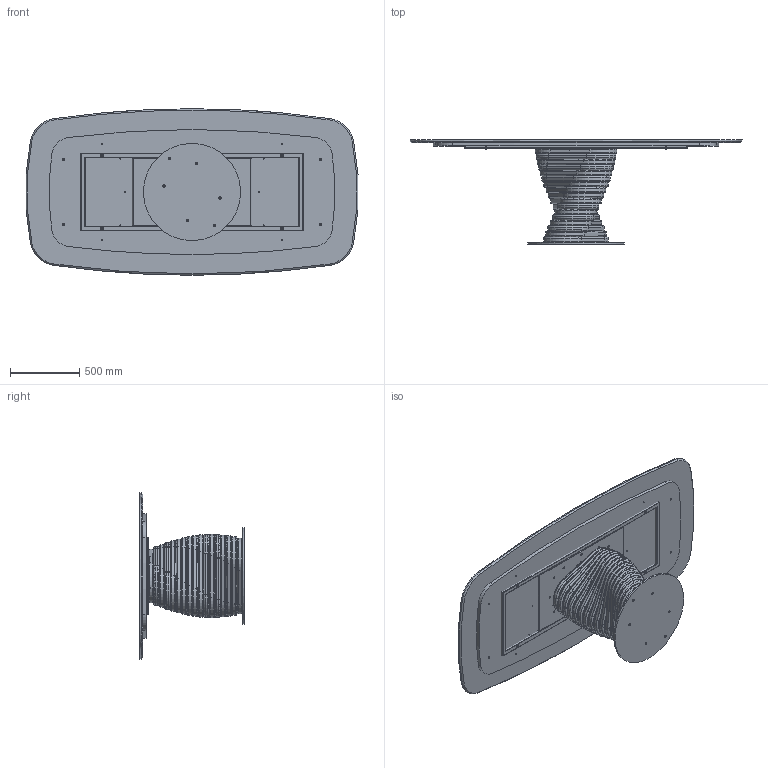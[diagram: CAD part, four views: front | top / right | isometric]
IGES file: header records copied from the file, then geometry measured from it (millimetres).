
Start section: SolidWorks IGES file using analytic representation for surfaces
Global section: file name: Y:\eforma\TECNICO\SOLIDWORKS\E-FORMA\1-TAVOLI\ROTOLO\02 parts\RO43M.IGS; native system: SolidWorks 2022; preprocessor: SolidWorks 2022; author: eforma.tech; date: 240807.153433; units: millimetre
Bounding box: 2391.9 x 752 x 1200 mm (x, y, z)
Volume: 108982791 mm3; surface area: 16834711.2 mm2
Topology: 95 solids, 95 shells, 1725 faces, 4107 edges, 2523 vertices
Faces by surface type: revolution 1069, plane 656
